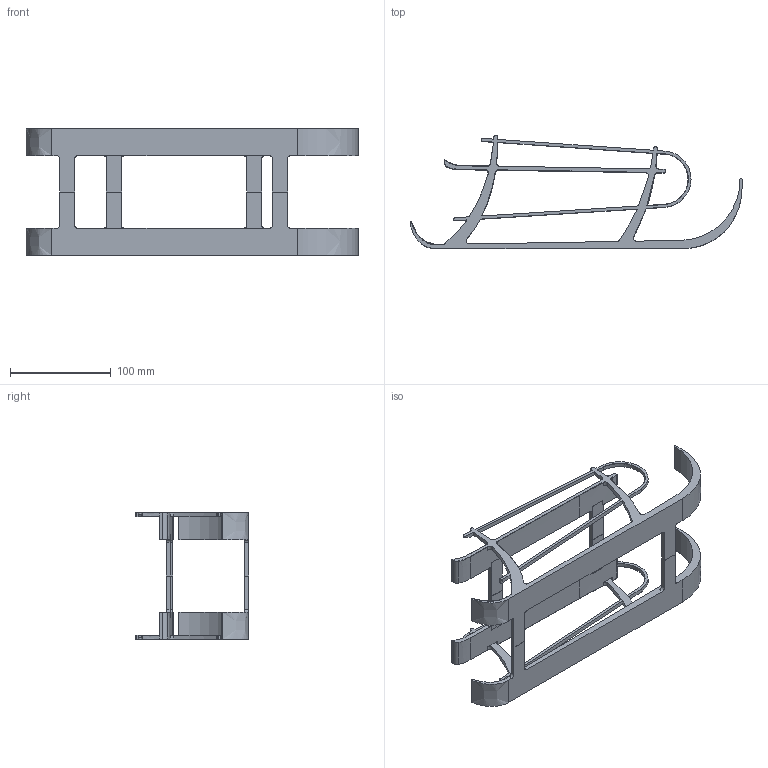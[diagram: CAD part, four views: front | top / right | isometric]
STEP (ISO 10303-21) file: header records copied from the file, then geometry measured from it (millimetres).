
FILE_DESCRIPTION(/* description */ ('AP-214 File'),/* implementation_level */ '2;1');
FILE_NAME(/* name */ 'Slim_Dispenser',/* time_stamp */ 'Thu Aug 12 21:48:28 2021',/* author */ (''),/* organization */ (''),/* preprocessor_version */ 'Autodesk STEP V1',/* originating_system */ 'Autodesk Manufacturing Data Exchange Utility2019.0.0.900002',/* authorisation */ '');
FILE_SCHEMA (('AUTOMOTIVE_DESIGN'));
Bounding box: 330.12 x 112.7 x 126 mm (x, y, z)
Volume: 209682.5 mm3; surface area: 111516.9 mm2
Topology: 2 solids, 2 shells, 360 faces, 1014 edges, 642 vertices
Faces by surface type: plane 128, cylinder 80, bspline 73, extrusion 56, cone 15, torus 8
Entity records: 13821 total; most frequent: CARTESIAN_POINT 5109, ORIENTED_EDGE 2012, DIRECTION 1294, EDGE_CURVE 1006, VERTEX_POINT 642, B_SPLINE_CURVE_WITH_KNOTS 477, VECTOR 452, AXIS2_PLACEMENT_3D 421
